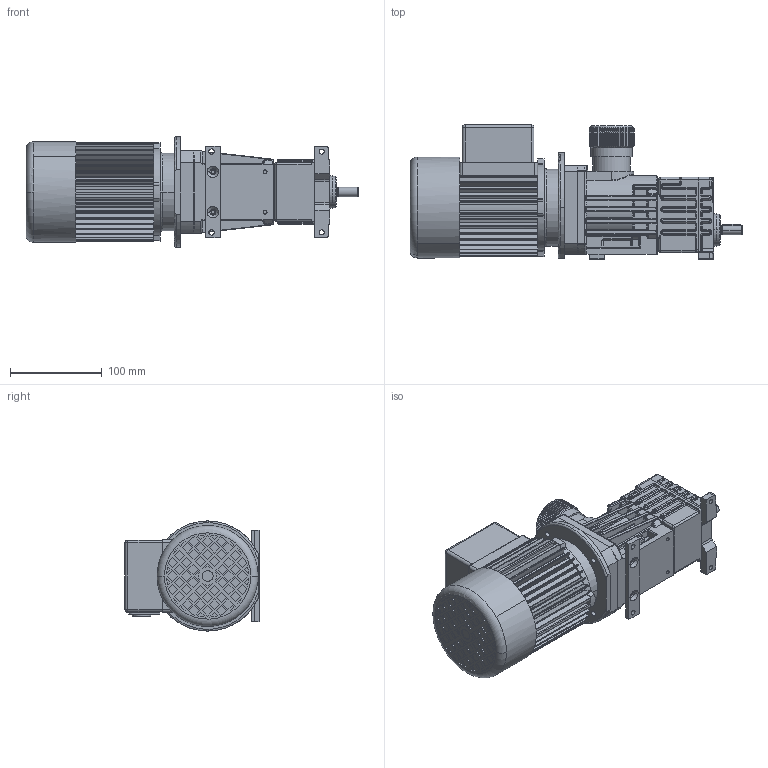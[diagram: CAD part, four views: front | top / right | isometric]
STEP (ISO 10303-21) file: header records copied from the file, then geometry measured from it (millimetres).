
FILE_DESCRIPTION(('CoCreate Modeling STEP Export'),'2;1');
FILE_NAME('K23_K27_ig_alle_BF_B3_Standardstelleinrichtung_180W_Motor.stp','2014-12-03T16:00:11',(''),(''),'CoCreate Modeling STEP processor for AP214 (Solid Model)','CoCreate Modeling 16.00C 25-Feb-2009 (C) Parametric Technology GmbH','');
FILE_SCHEMA(('AUTOMOTIVE_DESIGN { 1 0 10303 214 1 1 1 1 }'));
Products named in the file (3): K23_K27_ig_alle_BF_B3_Standardstelleinrichtung; 180W_Motor.01; K23_K27_ig_alle_BF_B3_Standardstelleinrichtung_180W_Motor
Assembly tree (2 placements, depth 2):
  K23_K27_ig_alle_BF_B3_Standardstelleinrichtung_180W_Motor
    180W_Motor.01
    K23_K27_ig_alle_BF_B3_Standardstelleinrichtung
Bounding box: 361.61 x 146.03 x 120 mm (x, y, z)
Volume: 2680142.9 mm3; surface area: 253996.6 mm2
Topology: 2 solids, 7 shells, 2627 faces, 6584 edges, 3970 vertices
Faces by surface type: plane 958, cylinder 827, bspline 613, torus 98, sphere 63, cone 46, extrusion 22
Entity records: 155803 total; most frequent: CARTESIAN_POINT 88781, ORIENTED_EDGE 12942, DIRECTION 8095, EDGE_CURVE 6471, VERTEX_POINT 3970, EDGE_LOOP 2755, VECTOR 2725, LINE 2703
